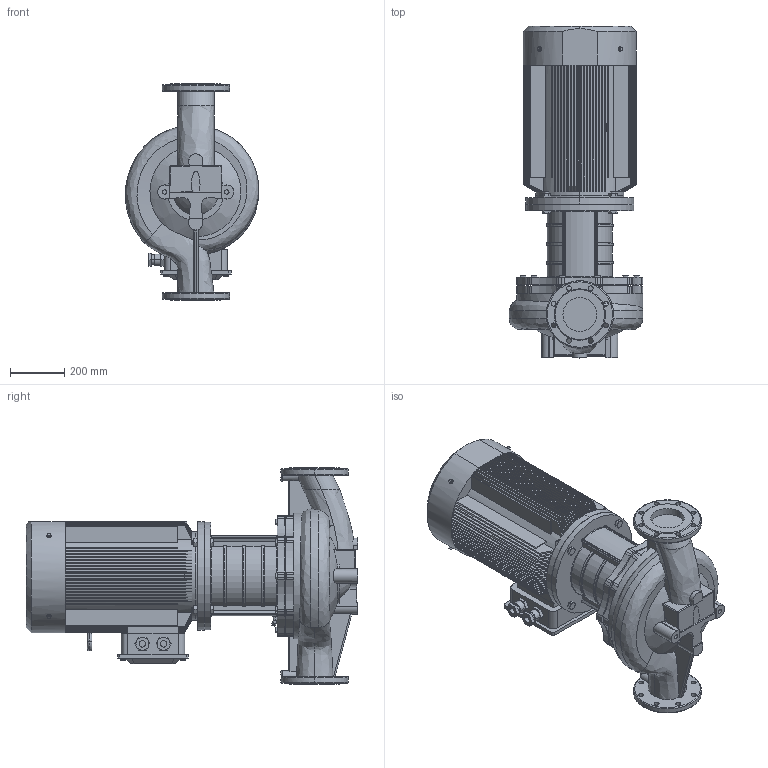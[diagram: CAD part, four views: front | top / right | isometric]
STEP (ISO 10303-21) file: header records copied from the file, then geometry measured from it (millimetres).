
FILE_DESCRIPTION(/* description */ (''),/* implementation_level */ '2;1');
FILE_NAME(/* name */ 'TD125-40-4安装尺寸图.stp',/* time_stamp */ '2026-09-07T16:38:58+08:00',/* author */ (''),/* organization */ (''),/* preprocessor_version */ 'ST-DEVELOPER v16.7',/* originating_system */ 'SIEMENS PLM Software NX 1847',/* authorisation */ '');
FILE_SCHEMA (('AP203_CONFIGURATION_CONTROLLED_3D_DESIGN_OF_MECHANICAL_PARTS_AND_ASSEMBLIES_MIM_LF { 1 0 10303 403 2 1 2}'));
Products named in the file (1): Admi55F8EAC4z4g2
Bounding box: 494.11 x 1229 x 800 mm (x, y, z)
Volume: 139811100.8 mm3; surface area: 6178114.7 mm2
Topology: 1 solids, 8 shells, 1625 faces, 4176 edges, 2596 vertices
Faces by surface type: plane 707, cylinder 427, cone 321, torus 91, sphere 46, bspline 33
Full cylindrical faces by diameter (mm): 8 x2, 10 x1, 11.701 x10, 12.9 x1, 16.63 x10, 17.623 x8, 25.34 x4, 340 x1, 350 x1, 399 x1
Entity records: 57284 total; most frequent: CARTESIAN_POINT 18811, ORIENTED_EDGE 8100, DIRECTION 7908, EDGE_CURVE 4050, AXIS2_PLACEMENT_3D 3095, VERTEX_POINT 2574, EDGE_LOOP 1822, LINE 1718
